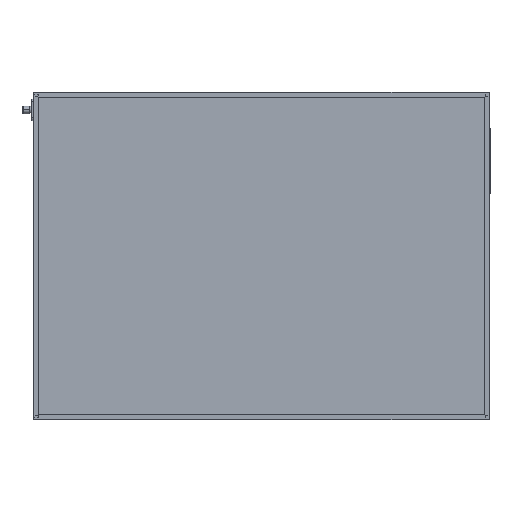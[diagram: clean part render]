
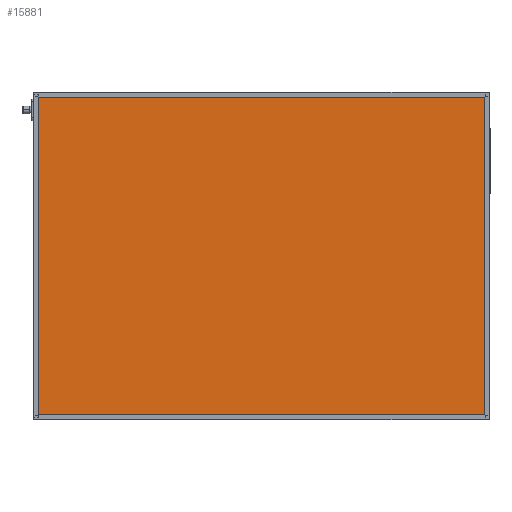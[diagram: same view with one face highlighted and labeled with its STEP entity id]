
A CAD part, top view. The second image highlights one B-rep face of the part: STEP entity #15881.
In plain terms, the highlighted planar face has unit normal (0, 0, 1).
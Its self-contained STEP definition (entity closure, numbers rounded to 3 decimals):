
#1173 = LINE ( 'NONE', #14589, #9058 ) ;
#1704 = LINE ( 'NONE', #6844, #8165 ) ;
#2267 = ORIENTED_EDGE ( 'NONE', *, *, #2336, .T. ) ;
#2336 = EDGE_CURVE ( 'NONE', #16908, #7886, #15374, .T. ) ;
#2819 = ORIENTED_EDGE ( 'NONE', *, *, #7042, .T. ) ;
#2924 = DIRECTION ( 'NONE',  ( -1., 0., 0. ) ) ;
#3439 = CARTESIAN_POINT ( 'NONE',  ( 0., 4., 41.85 ) ) ;
#4817 = CARTESIAN_POINT ( 'NONE',  ( 696., 0., 41.85 ) ) ;
#4902 = DIRECTION ( 'NONE',  ( 0., 1., 0. ) ) ;
#5271 = DIRECTION ( 'NONE',  ( 0., -1., 0. ) ) ;
#5278 = ORIENTED_EDGE ( 'NONE', *, *, #10516, .T. ) ;
#5556 = VERTEX_POINT ( 'NONE', #5911 ) ;
#5911 = CARTESIAN_POINT ( 'NONE',  ( 4., 496., 41.85 ) ) ;
#6486 = CARTESIAN_POINT ( 'NONE',  ( 4., 4., 41.85 ) ) ;
#6844 = CARTESIAN_POINT ( 'NONE',  ( 0., 496., 41.85 ) ) ;
#7042 = EDGE_CURVE ( 'NONE', #7398, #5556, #1704, .T. ) ;
#7398 = VERTEX_POINT ( 'NONE', #14517 ) ;
#7886 = VERTEX_POINT ( 'NONE', #16823 ) ;
#8165 = VECTOR ( 'NONE', #2924, 1000. ) ;
#8185 = CARTESIAN_POINT ( 'NONE',  ( 0., 0., 41.85 ) ) ;
#9058 = VECTOR ( 'NONE', #5271, 1000. ) ;
#9412 = DIRECTION ( 'NONE',  ( -1., 0., 0. ) ) ;
#9670 = AXIS2_PLACEMENT_3D ( 'NONE', #8185, #12205, #9412 ) ;
#9693 = ORIENTED_EDGE ( 'NONE', *, *, #11746, .T. ) ;
#10516 = EDGE_CURVE ( 'NONE', #5556, #16908, #1173, .T. ) ;
#11746 = EDGE_CURVE ( 'NONE', #7886, #7398, #16923, .T. ) ;
#12114 = VECTOR ( 'NONE', #4902, 1000. ) ;
#12205 = DIRECTION ( 'NONE',  ( 0., 0., -1. ) ) ;
#12293 = PLANE ( 'NONE',  #9670 ) ;
#13503 = FACE_OUTER_BOUND ( 'NONE', #13713, .T. ) ;
#13713 = EDGE_LOOP ( 'NONE', ( #9693, #2819, #5278, #2267 ) ) ;
#14065 = DIRECTION ( 'NONE',  ( 1., 0., 0. ) ) ;
#14453 = VECTOR ( 'NONE', #14065, 1000. ) ;
#14517 = CARTESIAN_POINT ( 'NONE',  ( 696., 496., 41.85 ) ) ;
#14589 = CARTESIAN_POINT ( 'NONE',  ( 4., 0., 41.85 ) ) ;
#15374 = LINE ( 'NONE', #3439, #14453 ) ;
#15881 = ADVANCED_FACE ( 'NONE', ( #13503 ), #12293, .F. ) ;
#16823 = CARTESIAN_POINT ( 'NONE',  ( 696., 4., 41.85 ) ) ;
#16908 = VERTEX_POINT ( 'NONE', #6486 ) ;
#16923 = LINE ( 'NONE', #4817, #12114 ) ;
